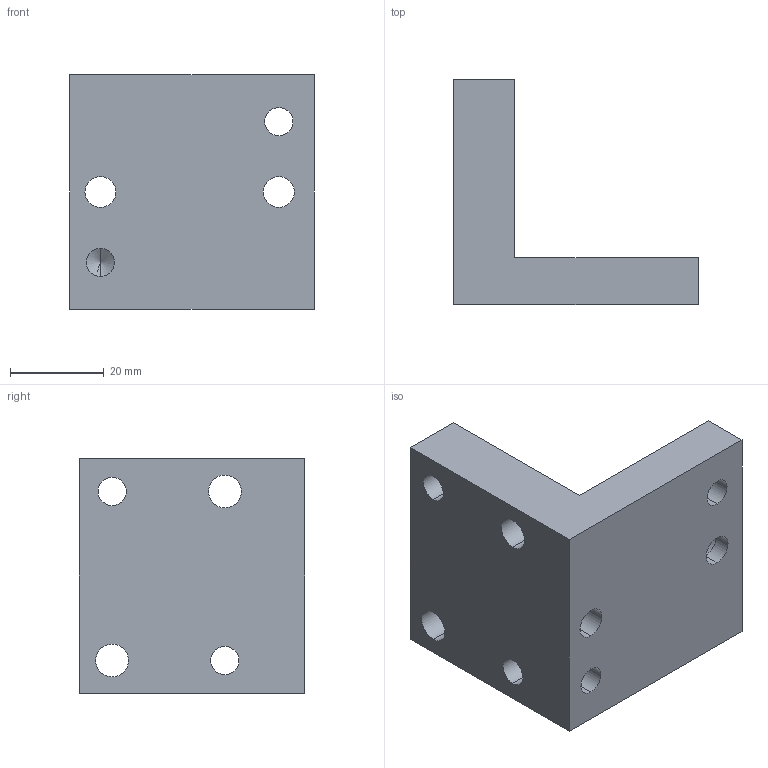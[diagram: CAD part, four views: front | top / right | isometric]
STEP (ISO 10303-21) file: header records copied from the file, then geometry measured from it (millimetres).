
FILE_DESCRIPTION (( 'STEP AP203' ), '1' );
FILE_NAME ('PPE63-L.step', '2017-02-15T12:25:53', ( '' ), ( '' ), 'SwSTEP 2.0', 'SolidWorks 2012', '' );
FILE_SCHEMA (( 'CONFIG_CONTROL_DESIGN' ));
Length unit declared in the file: millimetre
Products named in the file (1): PPE63-L
Bounding box: 52 x 48 x 50 mm (x, y, z)
Volume: 45400 mm3; surface area: 14440.4 mm2
Topology: 1 solids, 1 shells, 32 faces, 82 edges, 53 vertices
Faces by surface type: cylinder 20, plane 10, cone 2
Entity records: 1081 total; most frequent: DIRECTION 186, CARTESIAN_POINT 166, ORIENTED_EDGE 160, EDGE_CURVE 80, AXIS2_PLACEMENT_3D 73, VERTEX_POINT 53, EDGE_LOOP 49, LINE 40
